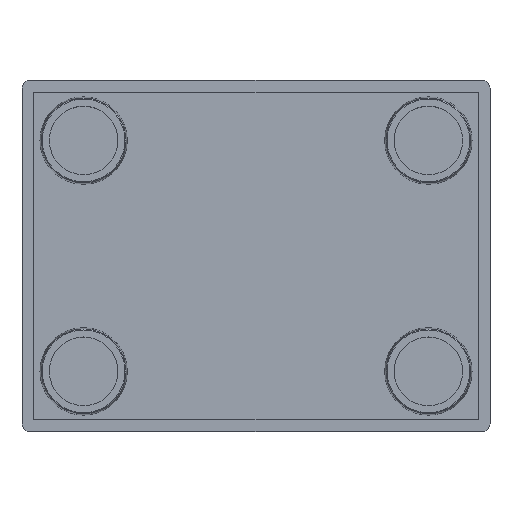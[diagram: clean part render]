
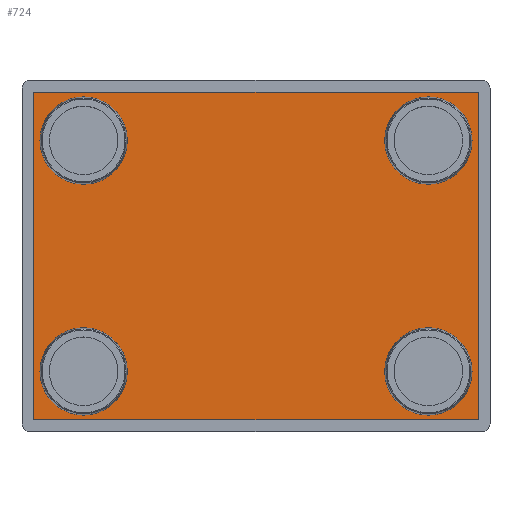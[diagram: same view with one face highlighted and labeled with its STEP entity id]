
A CAD part, top view. The second image highlights one B-rep face of the part: STEP entity #724.
In plain terms, the highlighted planar face has unit normal (0, 0, 1).
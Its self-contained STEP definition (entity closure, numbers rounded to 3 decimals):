
#12 = CARTESIAN_POINT ( 'NONE',  ( -22.1, 14.8, 1.5 ) ) ;
#60 = AXIS2_PLACEMENT_3D ( 'NONE', #952, #1199, #697 ) ;
#68 = VECTOR ( 'NONE', #322, 1000. ) ;
#80 = CARTESIAN_POINT ( 'NONE',  ( 28.5, -21., 1.5 ) ) ;
#82 = DIRECTION ( 'NONE',  ( -1., 0., 0. ) ) ;
#86 = CIRCLE ( 'NONE', #423, 5.6 ) ;
#103 = CARTESIAN_POINT ( 'NONE',  ( 28.5, 21., 1.5 ) ) ;
#109 = LINE ( 'NONE', #981, #68 ) ;
#120 = CARTESIAN_POINT ( 'NONE',  ( -28.5, 21., 1.5 ) ) ;
#143 = EDGE_CURVE ( 'NONE', #1495, #342, #1349, .T. ) ;
#177 = EDGE_CURVE ( 'NONE', #977, #191, #109, .T. ) ;
#182 = LINE ( 'NONE', #871, #1287 ) ;
#191 = VERTEX_POINT ( 'NONE', #1180 ) ;
#204 = DIRECTION ( 'NONE',  ( 0., 0., 1. ) ) ;
#205 = EDGE_CURVE ( 'NONE', #1462, #530, #292, .T. ) ;
#210 = DIRECTION ( 'NONE',  ( 0., 0., 1. ) ) ;
#218 = CARTESIAN_POINT ( 'NONE',  ( 22.1, -14.8, 1.5 ) ) ;
#228 = DIRECTION ( 'NONE',  ( -1., 0., 0. ) ) ;
#237 = DIRECTION ( 'NONE',  ( 0., 0., 1. ) ) ;
#256 = EDGE_LOOP ( 'NONE', ( #1266, #680 ) ) ;
#275 = CARTESIAN_POINT ( 'NONE',  ( -27.7, -14.8, 1.5 ) ) ;
#292 = CIRCLE ( 'NONE', #962, 5.6 ) ;
#296 = VERTEX_POINT ( 'NONE', #1445 ) ;
#313 = LINE ( 'NONE', #1181, #678 ) ;
#314 = ORIENTED_EDGE ( 'NONE', *, *, #1642, .T. ) ;
#322 = DIRECTION ( 'NONE',  ( 0., -1., 0. ) ) ;
#323 = AXIS2_PLACEMENT_3D ( 'NONE', #218, #237, #82 ) ;
#340 = CARTESIAN_POINT ( 'NONE',  ( 22.1, -14.8, 1.5 ) ) ;
#342 = VERTEX_POINT ( 'NONE', #1342 ) ;
#352 = EDGE_CURVE ( 'NONE', #529, #1499, #1395, .T. ) ;
#356 = DIRECTION ( 'NONE',  ( -1., 0., 0. ) ) ;
#358 = CIRCLE ( 'NONE', #571, 5.6 ) ;
#365 = VERTEX_POINT ( 'NONE', #103 ) ;
#416 = VERTEX_POINT ( 'NONE', #80 ) ;
#417 = FACE_BOUND ( 'NONE', #256, .T. ) ;
#423 = AXIS2_PLACEMENT_3D ( 'NONE', #1584, #1558, #1491 ) ;
#431 = ORIENTED_EDGE ( 'NONE', *, *, #653, .T. ) ;
#436 = ORIENTED_EDGE ( 'NONE', *, *, #1663, .F. ) ;
#446 = AXIS2_PLACEMENT_3D ( 'NONE', #910, #612, #356 ) ;
#454 = ORIENTED_EDGE ( 'NONE', *, *, #177, .T. ) ;
#471 = VERTEX_POINT ( 'NONE', #554 ) ;
#484 = DIRECTION ( 'NONE',  ( -1., 0., 0. ) ) ;
#490 = DIRECTION ( 'NONE',  ( 0., 0., 1. ) ) ;
#494 = CARTESIAN_POINT ( 'NONE',  ( 27.7, 14.8, 1.5 ) ) ;
#504 = CARTESIAN_POINT ( 'NONE',  ( -22.1, -14.8, 1.5 ) ) ;
#517 = ORIENTED_EDGE ( 'NONE', *, *, #1361, .F. ) ;
#529 = VERTEX_POINT ( 'NONE', #494 ) ;
#530 = VERTEX_POINT ( 'NONE', #275 ) ;
#554 = CARTESIAN_POINT ( 'NONE',  ( 16.5, -14.8, 1.5 ) ) ;
#566 = CARTESIAN_POINT ( 'NONE',  ( 28.5, -21., 1.5 ) ) ;
#571 = AXIS2_PLACEMENT_3D ( 'NONE', #340, #210, #228 ) ;
#589 = FACE_BOUND ( 'NONE', #1501, .T. ) ;
#612 = DIRECTION ( 'NONE',  ( 0., 0., 1. ) ) ;
#653 = EDGE_CURVE ( 'NONE', #416, #365, #1057, .T. ) ;
#654 = PLANE ( 'NONE',  #60 ) ;
#672 = CARTESIAN_POINT ( 'NONE',  ( -16.5, -14.8, 1.5 ) ) ;
#678 = VECTOR ( 'NONE', #679, 1000. ) ;
#679 = DIRECTION ( 'NONE',  ( -1., 0., 0. ) ) ;
#680 = ORIENTED_EDGE ( 'NONE', *, *, #205, .F. ) ;
#697 = DIRECTION ( 'NONE',  ( -1., 0., 0. ) ) ;
#724 = ADVANCED_FACE ( 'NONE', ( #1502, #1617, #417, #589, #1529 ), #654, .F. ) ;
#768 = DIRECTION ( 'NONE',  ( -1., 0., 0. ) ) ;
#801 = EDGE_CURVE ( 'NONE', #296, #471, #1072, .T. ) ;
#808 = EDGE_LOOP ( 'NONE', ( #431, #1248, #454, #314 ) ) ;
#871 = CARTESIAN_POINT ( 'NONE',  ( -28.5, -21., 1.5 ) ) ;
#877 = DIRECTION ( 'NONE',  ( 1., 0., 0. ) ) ;
#910 = CARTESIAN_POINT ( 'NONE',  ( -22.1, 14.8, 1.5 ) ) ;
#930 = ORIENTED_EDGE ( 'NONE', *, *, #143, .F. ) ;
#942 = EDGE_CURVE ( 'NONE', #365, #977, #313, .T. ) ;
#952 = CARTESIAN_POINT ( 'NONE',  ( 0., 0., 1.5 ) ) ;
#962 = AXIS2_PLACEMENT_3D ( 'NONE', #1619, #1264, #1065 ) ;
#977 = VERTEX_POINT ( 'NONE', #120 ) ;
#981 = CARTESIAN_POINT ( 'NONE',  ( -28.5, -21., 1.5 ) ) ;
#982 = DIRECTION ( 'NONE',  ( 0., 1., 0. ) ) ;
#1042 = DIRECTION ( 'NONE',  ( 0., 0., 1. ) ) ;
#1057 = LINE ( 'NONE', #566, #1681 ) ;
#1065 = DIRECTION ( 'NONE',  ( -1., 0., 0. ) ) ;
#1072 = CIRCLE ( 'NONE', #323, 5.6 ) ;
#1086 = CARTESIAN_POINT ( 'NONE',  ( -16.5, 14.8, 1.5 ) ) ;
#1133 = EDGE_LOOP ( 'NONE', ( #1430, #1168 ) ) ;
#1168 = ORIENTED_EDGE ( 'NONE', *, *, #352, .F. ) ;
#1178 = CARTESIAN_POINT ( 'NONE',  ( 16.5, 14.8, 1.5 ) ) ;
#1180 = CARTESIAN_POINT ( 'NONE',  ( -28.5, -21., 1.5 ) ) ;
#1181 = CARTESIAN_POINT ( 'NONE',  ( -28.5, 21., 1.5 ) ) ;
#1183 = EDGE_CURVE ( 'NONE', #530, #1462, #1527, .T. ) ;
#1189 = ORIENTED_EDGE ( 'NONE', *, *, #801, .F. ) ;
#1199 = DIRECTION ( 'NONE',  ( 0., 0., -1. ) ) ;
#1219 = CIRCLE ( 'NONE', #1506, 5.6 ) ;
#1240 = EDGE_LOOP ( 'NONE', ( #436, #1189 ) ) ;
#1248 = ORIENTED_EDGE ( 'NONE', *, *, #942, .T. ) ;
#1264 = DIRECTION ( 'NONE',  ( 0., 0., 1. ) ) ;
#1266 = ORIENTED_EDGE ( 'NONE', *, *, #1183, .F. ) ;
#1287 = VECTOR ( 'NONE', #877, 1000. ) ;
#1342 = CARTESIAN_POINT ( 'NONE',  ( -27.7, 14.8, 1.5 ) ) ;
#1349 = CIRCLE ( 'NONE', #446, 5.6 ) ;
#1361 = EDGE_CURVE ( 'NONE', #342, #1495, #1219, .T. ) ;
#1395 = CIRCLE ( 'NONE', #1591, 5.6 ) ;
#1421 = EDGE_CURVE ( 'NONE', #1499, #529, #86, .T. ) ;
#1430 = ORIENTED_EDGE ( 'NONE', *, *, #1421, .F. ) ;
#1445 = CARTESIAN_POINT ( 'NONE',  ( 27.7, -14.8, 1.5 ) ) ;
#1451 = AXIS2_PLACEMENT_3D ( 'NONE', #504, #490, #484 ) ;
#1462 = VERTEX_POINT ( 'NONE', #672 ) ;
#1491 = DIRECTION ( 'NONE',  ( -1., 0., 0. ) ) ;
#1493 = DIRECTION ( 'NONE',  ( -1., 0., 0. ) ) ;
#1495 = VERTEX_POINT ( 'NONE', #1086 ) ;
#1499 = VERTEX_POINT ( 'NONE', #1178 ) ;
#1501 = EDGE_LOOP ( 'NONE', ( #517, #930 ) ) ;
#1502 = FACE_BOUND ( 'NONE', #1240, .T. ) ;
#1506 = AXIS2_PLACEMENT_3D ( 'NONE', #12, #1042, #768 ) ;
#1527 = CIRCLE ( 'NONE', #1451, 5.6 ) ;
#1529 = FACE_OUTER_BOUND ( 'NONE', #808, .T. ) ;
#1558 = DIRECTION ( 'NONE',  ( 0., 0., 1. ) ) ;
#1584 = CARTESIAN_POINT ( 'NONE',  ( 22.1, 14.8, 1.5 ) ) ;
#1591 = AXIS2_PLACEMENT_3D ( 'NONE', #1655, #204, #1493 ) ;
#1617 = FACE_BOUND ( 'NONE', #1133, .T. ) ;
#1619 = CARTESIAN_POINT ( 'NONE',  ( -22.1, -14.8, 1.5 ) ) ;
#1642 = EDGE_CURVE ( 'NONE', #191, #416, #182, .T. ) ;
#1655 = CARTESIAN_POINT ( 'NONE',  ( 22.1, 14.8, 1.5 ) ) ;
#1663 = EDGE_CURVE ( 'NONE', #471, #296, #358, .T. ) ;
#1681 = VECTOR ( 'NONE', #982, 1000. ) ;
